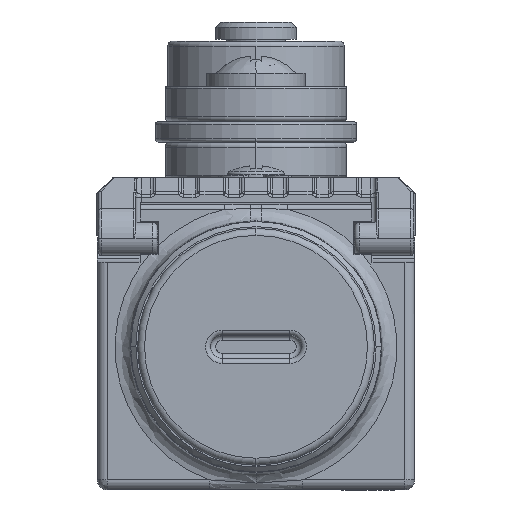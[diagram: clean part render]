
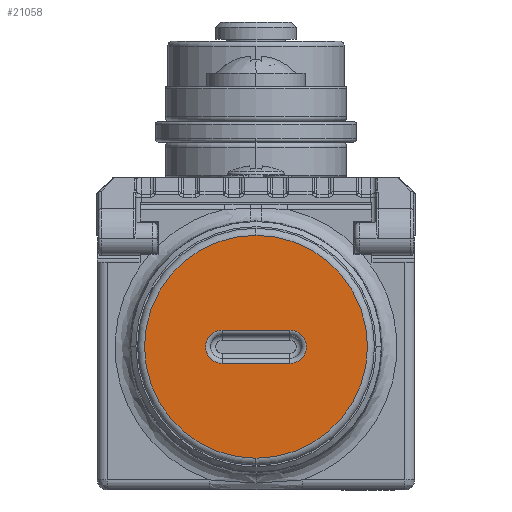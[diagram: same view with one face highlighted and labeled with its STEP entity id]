
A CAD part, front view. The second image highlights one B-rep face of the part: STEP entity #21058.
In plain terms, the highlighted planar face has unit normal (0, -1, 0).
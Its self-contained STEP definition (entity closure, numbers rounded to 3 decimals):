
#5879 = EDGE_CURVE ( 'NONE', #25605, #73772, #54639, .T. ) ;
#9578 = CARTESIAN_POINT ( 'NONE',  ( 0., -6., 3.2 ) ) ;
#12220 = CARTESIAN_POINT ( 'NONE',  ( 0., -6., -8.55 ) ) ;
#14599 = CIRCLE ( 'NONE', #36871, 11.05 ) ;
#17332 = CARTESIAN_POINT ( 'NONE',  ( 0., -6., 1.55 ) ) ;
#18155 = DIRECTION ( 'NONE',  ( 0., 0., -1. ) ) ;
#18577 = CARTESIAN_POINT ( 'NONE',  ( -3.35, -6., 1.55 ) ) ;
#20805 = DIRECTION ( 'NONE',  ( 0., 0., -1. ) ) ;
#20921 = CARTESIAN_POINT ( 'NONE',  ( 3.35, -6., 1.55 ) ) ;
#21058 = ADVANCED_FACE ( 'NONE', ( #29992, #98226 ), #54955, .F. ) ;
#21414 = CARTESIAN_POINT ( 'NONE',  ( 0., -6., 3.2 ) ) ;
#25605 = VERTEX_POINT ( 'NONE', #20921 ) ;
#26808 = ORIENTED_EDGE ( 'NONE', *, *, #71227, .T. ) ;
#27838 = ORIENTED_EDGE ( 'NONE', *, *, #100008, .T. ) ;
#29992 = FACE_BOUND ( 'NONE', #74397, .T. ) ;
#30070 = DIRECTION ( 'NONE',  ( 0., 0., -1. ) ) ;
#32676 = ORIENTED_EDGE ( 'NONE', *, *, #62218, .T. ) ;
#34417 = DIRECTION ( 'NONE',  ( 1., 0., 0. ) ) ;
#36710 = ORIENTED_EDGE ( 'NONE', *, *, #60962, .T. ) ;
#36871 = AXIS2_PLACEMENT_3D ( 'NONE', #21414, #81326, #30070 ) ;
#39201 = AXIS2_PLACEMENT_3D ( 'NONE', #99719, #48495, #108325 ) ;
#43299 = VECTOR ( 'NONE', #34417, 1000. ) ;
#44164 = CIRCLE ( 'NONE', #81490, 1.65 ) ;
#46290 = CARTESIAN_POINT ( 'NONE',  ( 3.35, -6., 3.2 ) ) ;
#48007 = VERTEX_POINT ( 'NONE', #48605 ) ;
#48495 = DIRECTION ( 'NONE',  ( 0., 1., 0. ) ) ;
#48605 = CARTESIAN_POINT ( 'NONE',  ( 3.35, -6., 4.85 ) ) ;
#51790 = DIRECTION ( 'NONE',  ( -1., 0., 0. ) ) ;
#54639 = LINE ( 'NONE', #17332, #72029 ) ;
#54913 = DIRECTION ( 'NONE',  ( 0., 0., -1. ) ) ;
#54955 = PLANE ( 'NONE',  #109771 ) ;
#57308 = CARTESIAN_POINT ( 'NONE',  ( 0., -6., 14.25 ) ) ;
#57313 = CIRCLE ( 'NONE', #99278, 11.05 ) ;
#58198 = EDGE_LOOP ( 'NONE', ( #27838, #36710 ) ) ;
#60962 = EDGE_CURVE ( 'NONE', #111001, #86026, #14599, .T. ) ;
#62218 = EDGE_CURVE ( 'NONE', #48007, #25605, #44164, .T. ) ;
#62389 = EDGE_CURVE ( 'NONE', #73772, #78175, #96276, .T. ) ;
#62785 = CARTESIAN_POINT ( 'NONE',  ( 0., -6., -7.85 ) ) ;
#69497 = DIRECTION ( 'NONE',  ( 0., -1., 0. ) ) ;
#71227 = EDGE_CURVE ( 'NONE', #78175, #48007, #108820, .T. ) ;
#72029 = VECTOR ( 'NONE', #51790, 1000. ) ;
#72153 = DIRECTION ( 'NONE',  ( 0., 1., 0. ) ) ;
#73772 = VERTEX_POINT ( 'NONE', #18577 ) ;
#74397 = EDGE_LOOP ( 'NONE', ( #26808, #32676, #96314, #110018 ) ) ;
#78175 = VERTEX_POINT ( 'NONE', #96022 ) ;
#81326 = DIRECTION ( 'NONE',  ( 0., -1., 0. ) ) ;
#81490 = AXIS2_PLACEMENT_3D ( 'NONE', #46290, #106104, #54913 ) ;
#85711 = CARTESIAN_POINT ( 'NONE',  ( 0., -6., 4.85 ) ) ;
#86026 = VERTEX_POINT ( 'NONE', #62785 ) ;
#96022 = CARTESIAN_POINT ( 'NONE',  ( -3.35, -6., 4.85 ) ) ;
#96276 = CIRCLE ( 'NONE', #39201, 1.65 ) ;
#96314 = ORIENTED_EDGE ( 'NONE', *, *, #5879, .T. ) ;
#98226 = FACE_OUTER_BOUND ( 'NONE', #58198, .T. ) ;
#99278 = AXIS2_PLACEMENT_3D ( 'NONE', #9578, #69497, #18155 ) ;
#99719 = CARTESIAN_POINT ( 'NONE',  ( -3.35, -6., 3.2 ) ) ;
#100008 = EDGE_CURVE ( 'NONE', #86026, #111001, #57313, .T. ) ;
#106104 = DIRECTION ( 'NONE',  ( 0., 1., 0. ) ) ;
#108325 = DIRECTION ( 'NONE',  ( 0., 0., -1. ) ) ;
#108820 = LINE ( 'NONE', #85711, #43299 ) ;
#109771 = AXIS2_PLACEMENT_3D ( 'NONE', #12220, #72153, #20805 ) ;
#110018 = ORIENTED_EDGE ( 'NONE', *, *, #62389, .T. ) ;
#111001 = VERTEX_POINT ( 'NONE', #57308 ) ;
